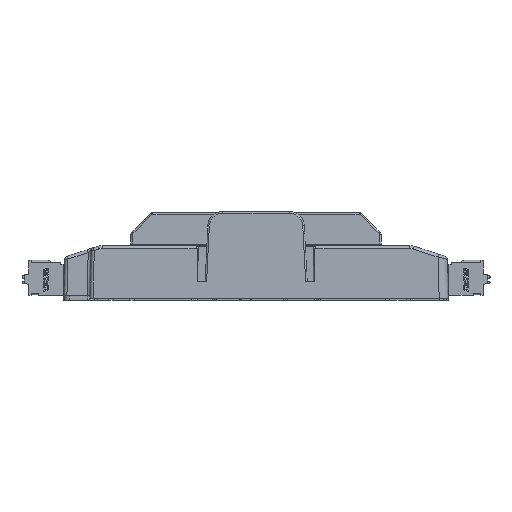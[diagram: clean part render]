
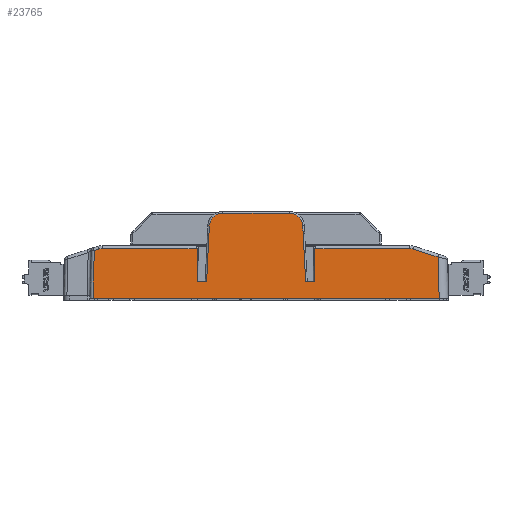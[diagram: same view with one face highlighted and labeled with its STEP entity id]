
A CAD part, front view. The second image highlights one B-rep face of the part: STEP entity #23765.
In plain terms, the highlighted planar face has unit normal (0, -1, 0.026).
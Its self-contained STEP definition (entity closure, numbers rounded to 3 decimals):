
#21253=ELLIPSE('',#83784,4.502,4.5);
#21254=ELLIPSE('',#83788,4.502,4.5);
#21259=ELLIPSE('',#83811,0.5,0.5);
#21263=ELLIPSE('',#83823,0.5,0.5);
#21273=ELLIPSE('',#83866,4.001,4.);
#21278=ELLIPSE('',#83884,4.001,4.);
#23765=ADVANCED_FACE('',(#29461),#26861,.F.);
#26861=PLANE('',#83915);
#29461=FACE_OUTER_BOUND('',#32662,.T.);
#32662=EDGE_LOOP('',(#37713,#37714,#37715,#37716,#37717,#37718,#37719,#37720,
#37721,#37722,#37723,#37724,#37725,#37726,#37727,#37728,#37729,#37730,#37731,
#37732));
#37713=ORIENTED_EDGE('',*,*,#60843,.F.);
#37714=ORIENTED_EDGE('',*,*,#60000,.F.);
#37715=ORIENTED_EDGE('',*,*,#60844,.T.);
#37716=ORIENTED_EDGE('',*,*,#60812,.T.);
#37717=ORIENTED_EDGE('',*,*,#60799,.T.);
#37718=ORIENTED_EDGE('',*,*,#60778,.T.);
#37719=ORIENTED_EDGE('',*,*,#60703,.T.);
#37720=ORIENTED_EDGE('',*,*,#60688,.T.);
#37721=ORIENTED_EDGE('',*,*,#60686,.F.);
#37722=ORIENTED_EDGE('',*,*,#60681,.T.);
#37723=ORIENTED_EDGE('',*,*,#60679,.T.);
#37724=ORIENTED_EDGE('',*,*,#60677,.T.);
#37725=ORIENTED_EDGE('',*,*,#60675,.T.);
#37726=ORIENTED_EDGE('',*,*,#60673,.T.);
#37727=ORIENTED_EDGE('',*,*,#60671,.F.);
#37728=ORIENTED_EDGE('',*,*,#60664,.F.);
#37729=ORIENTED_EDGE('',*,*,#60725,.T.);
#37730=ORIENTED_EDGE('',*,*,#60795,.T.);
#37731=ORIENTED_EDGE('',*,*,#60775,.T.);
#37732=ORIENTED_EDGE('',*,*,#60763,.T.);
#54063=VERTEX_POINT('',#104854);
#54064=VERTEX_POINT('',#104856);
#54529=VERTEX_POINT('',#106530);
#54530=VERTEX_POINT('',#106531);
#54534=VERTEX_POINT('',#106543);
#54535=VERTEX_POINT('',#106547);
#54536=VERTEX_POINT('',#106551);
#54537=VERTEX_POINT('',#106572);
#54538=VERTEX_POINT('',#106576);
#54539=VERTEX_POINT('',#106597);
#54542=VERTEX_POINT('',#106606);
#54543=VERTEX_POINT('',#106610);
#54548=VERTEX_POINT('',#106623);
#54552=VERTEX_POINT('',#106635);
#54567=VERTEX_POINT('',#106721);
#54586=VERTEX_POINT('',#106888);
#54591=VERTEX_POINT('',#106941);
#54593=VERTEX_POINT('',#106958);
#54601=VERTEX_POINT('',#107019);
#54608=VERTEX_POINT('',#107067);
#60000=EDGE_CURVE('',#54063,#54064,#68924,.T.);
#60664=EDGE_CURVE('',#54529,#54530,#69320,.T.);
#60671=EDGE_CURVE('',#54530,#54534,#69325,.T.);
#60673=EDGE_CURVE('',#54535,#54534,#69326,.T.);
#60675=EDGE_CURVE('',#54536,#54535,#21253,.T.);
#60677=EDGE_CURVE('',#54537,#54536,#69327,.T.);
#60679=EDGE_CURVE('',#54538,#54537,#21254,.T.);
#60681=EDGE_CURVE('',#54539,#54538,#69328,.T.);
#60686=EDGE_CURVE('',#54539,#54542,#69332,.T.);
#60688=EDGE_CURVE('',#54543,#54542,#69333,.T.);
#60703=EDGE_CURVE('',#54552,#54543,#21259,.T.);
#60725=EDGE_CURVE('',#54529,#54567,#21263,.T.);
#60763=EDGE_CURVE('',#54586,#54548,#69366,.T.);
#60775=EDGE_CURVE('',#54591,#54586,#21273,.T.);
#60778=EDGE_CURVE('',#54593,#54552,#69371,.T.);
#60795=EDGE_CURVE('',#54567,#54591,#69383,.T.);
#60799=EDGE_CURVE('',#54601,#54593,#21278,.T.);
#60812=EDGE_CURVE('',#54608,#54601,#69388,.T.);
#60843=EDGE_CURVE('',#54064,#54548,#69415,.T.);
#60844=EDGE_CURVE('',#54063,#54608,#69416,.T.);
#68924=LINE('',#104855,#76158);
#69320=LINE('',#106529,#76554);
#69325=LINE('',#106542,#76559);
#69326=LINE('',#106546,#76560);
#69327=LINE('',#106571,#76561);
#69328=LINE('',#106596,#76562);
#69332=LINE('',#106605,#76566);
#69333=LINE('',#106609,#76567);
#69366=LINE('',#106887,#76600);
#69371=LINE('',#106957,#76605);
#69383=LINE('',#107014,#76617);
#69388=LINE('',#107087,#76622);
#69415=LINE('',#107147,#76649);
#69416=LINE('',#107149,#76650);
#76158=VECTOR('',#88224,1.);
#76554=VECTOR('',#89558,1.);
#76559=VECTOR('',#89569,1.);
#76560=VECTOR('',#89574,1.);
#76561=VECTOR('',#89583,1.);
#76562=VECTOR('',#89592,1.);
#76566=VECTOR('',#89600,1.);
#76567=VECTOR('',#89605,1.);
#76600=VECTOR('',#89756,1.);
#76605=VECTOR('',#89793,1.);
#76617=VECTOR('',#89827,1.);
#76622=VECTOR('',#89868,1.);
#76649=VECTOR('',#89927,1.);
#76650=VECTOR('',#89930,1.);
#83784=AXIS2_PLACEMENT_3D('',#106550,#89579,#89580);
#83788=AXIS2_PLACEMENT_3D('',#106575,#89588,#89589);
#83811=AXIS2_PLACEMENT_3D('',#106668,#89641,#89642);
#83823=AXIS2_PLACEMENT_3D('',#106722,#89682,#89683);
#83866=AXIS2_PLACEMENT_3D('',#106940,#89787,#89788);
#83884=AXIS2_PLACEMENT_3D('',#107021,#89837,#89838);
#83915=AXIS2_PLACEMENT_3D('',#107150,#89931,#89932);
#88224=DIRECTION('',(-1.,0.,0.));
#89558=DIRECTION('',(0.009,-0.026,-1.));
#89569=DIRECTION('',(1.,0.,0.));
#89574=DIRECTION('',(-0.047,-0.026,-0.999));
#89579=DIRECTION('',(0.,-1.,0.026));
#89580=DIRECTION('',(0.,-0.026,-1.));
#89583=DIRECTION('',(-1.,0.,0.));
#89588=DIRECTION('',(0.,-1.,0.026));
#89589=DIRECTION('',(0.,0.026,1.));
#89592=DIRECTION('',(-0.052,0.026,0.998));
#89600=DIRECTION('',(1.,0.,0.));
#89605=DIRECTION('',(-0.009,-0.026,-1.));
#89641=DIRECTION('',(0.,-1.,0.026));
#89642=DIRECTION('',(0.,0.026,1.));
#89682=DIRECTION('',(0.,-1.,0.026));
#89683=DIRECTION('',(0.,-0.026,-1.));
#89756=DIRECTION('',(-0.951,-0.008,-0.309));
#89787=DIRECTION('',(0.,-1.,0.026));
#89788=DIRECTION('',(0.,-0.026,-1.));
#89793=DIRECTION('',(-1.,0.,0.));
#89827=DIRECTION('',(-1.,0.,0.));
#89837=DIRECTION('',(0.,-1.,0.026));
#89838=DIRECTION('',(0.,0.026,1.));
#89868=DIRECTION('',(-0.951,0.008,0.309));
#89927=DIRECTION('',(0.026,0.026,0.999));
#89930=DIRECTION('',(-0.026,0.026,0.999));
#89931=DIRECTION('',(0.,1.,-0.026));
#89932=DIRECTION('',(0.,0.026,1.));
#104854=CARTESIAN_POINT('',(-666.051,173.117,7.5));
#104855=CARTESIAN_POINT('',(-731.056,173.117,7.5));
#104856=CARTESIAN_POINT('',(-781.229,173.117,7.5));
#106529=CARTESIAN_POINT('',(-746.415,172.956,1.325));
#106530=CARTESIAN_POINT('',(-746.613,173.55,24.017));
#106531=CARTESIAN_POINT('',(-746.516,173.262,13.));
#106542=CARTESIAN_POINT('',(-669.,173.262,13.));
#106543=CARTESIAN_POINT('',(-743.42,173.262,13.));
#106546=CARTESIAN_POINT('',(-743.774,173.067,5.553));
#106547=CARTESIAN_POINT('',(-742.54,173.747,31.527));
#106550=CARTESIAN_POINT('',(-738.045,173.741,31.313));
#106551=CARTESIAN_POINT('',(-738.045,173.859,35.813));
#106571=CARTESIAN_POINT('',(-678.,173.859,35.813));
#106572=CARTESIAN_POINT('',(-715.941,173.859,35.813));
#106575=CARTESIAN_POINT('',(-715.941,173.741,31.313));
#106576=CARTESIAN_POINT('',(-711.447,173.747,31.549));
#106596=CARTESIAN_POINT('',(-709.786,172.918,-0.136));
#106597=CARTESIAN_POINT('',(-710.475,173.262,13.));
#106605=CARTESIAN_POINT('',(-669.,173.262,13.));
#106606=CARTESIAN_POINT('',(-707.484,173.262,13.));
#106609=CARTESIAN_POINT('',(-707.577,172.982,2.336));
#106610=CARTESIAN_POINT('',(-707.387,173.55,24.017));
#106623=CARTESIAN_POINT('',(-780.814,173.532,23.347));
#106635=CARTESIAN_POINT('',(-707.387,173.55,24.026));
#106668=CARTESIAN_POINT('',(-706.887,173.55,24.013));
#106721=CARTESIAN_POINT('',(-746.613,173.55,24.026));
#106722=CARTESIAN_POINT('',(-747.113,173.55,24.013));
#106887=CARTESIAN_POINT('',(-694.102,174.27,51.521));
#106888=CARTESIAN_POINT('',(-779.326,173.545,23.83));
#106940=CARTESIAN_POINT('',(-778.09,173.446,20.026));
#106941=CARTESIAN_POINT('',(-778.09,173.55,24.026));
#106957=CARTESIAN_POINT('',(-804.,173.55,24.026));
#106958=CARTESIAN_POINT('',(-675.91,173.55,24.026));
#107014=CARTESIAN_POINT('',(-804.,173.55,24.026));
#107019=CARTESIAN_POINT('',(-674.674,173.545,23.83));
#107021=CARTESIAN_POINT('',(-675.91,173.446,20.026));
#107067=CARTESIAN_POINT('',(-666.409,173.475,21.145));
#107087=CARTESIAN_POINT('',(-671.262,173.516,22.722));
#107147=CARTESIAN_POINT('',(-781.302,173.045,4.72));
#107149=CARTESIAN_POINT('',(-665.916,172.982,2.316));
#107150=CARTESIAN_POINT('',(-678.,172.973,2.));
